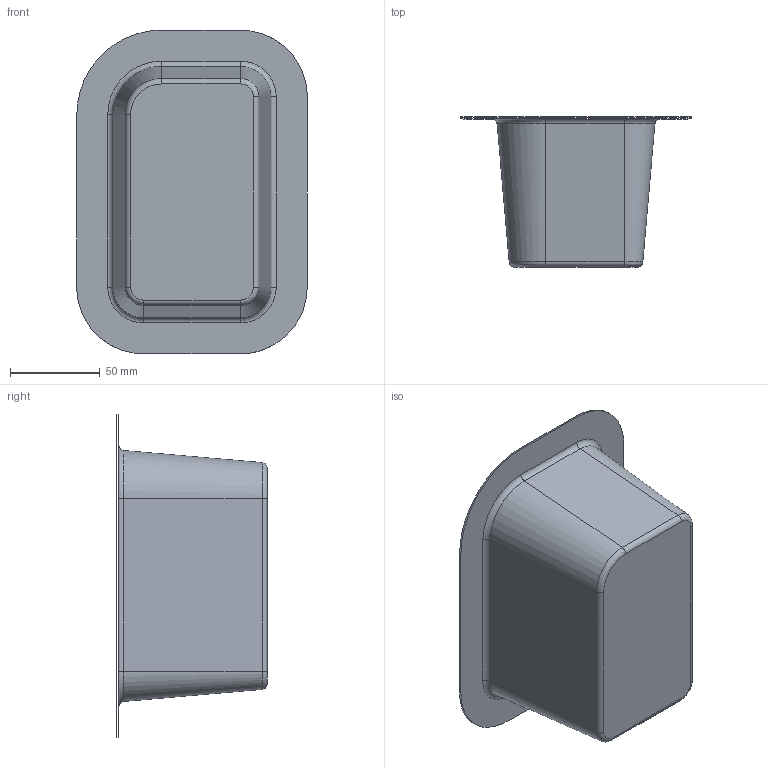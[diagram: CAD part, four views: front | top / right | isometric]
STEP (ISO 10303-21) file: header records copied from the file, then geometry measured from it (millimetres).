
FILE_DESCRIPTION(('CATIA V5 STEP Exchange'),'2;1');
FILE_NAME('C:\_Andres\UNIVERSIDAD\IQS\ASIGNATURAS\DAO\Controles\1617\c3\2inicio\Rabat_Riba_control3_v26.stp','2017-02-17T14:22:11+00:00',('none'),('none'),'CATIA Version 5-6 Release 2014 SP1 HF18','CATIA V5 STEP AP203','none');
FILE_SCHEMA(('CONFIG_CONTROL_DESIGN'));
Length unit declared in the file: millimetre
Products named in the file (1): Rabat_Riba_control3_v26
Bounding box: 128.47 x 83.68 x 180.47 mm (x, y, z)
Surface area: 73187.7 mm2 (no closed solid volume)
Topology: 0 solids, 2 shells, 27 faces, 80 edges, 57 vertices
Faces by surface type: bspline 16, cylinder 8, plane 3
Entity records: 1994 total; most frequent: CARTESIAN_POINT 1398, ORIENTED_EDGE 128, EDGE_CURVE 72, B_SPLINE_CURVE_WITH_KNOTS 54, DIRECTION 50, VERTEX_POINT 48, EDGE_LOOP 28, ADVANCED_FACE 27
